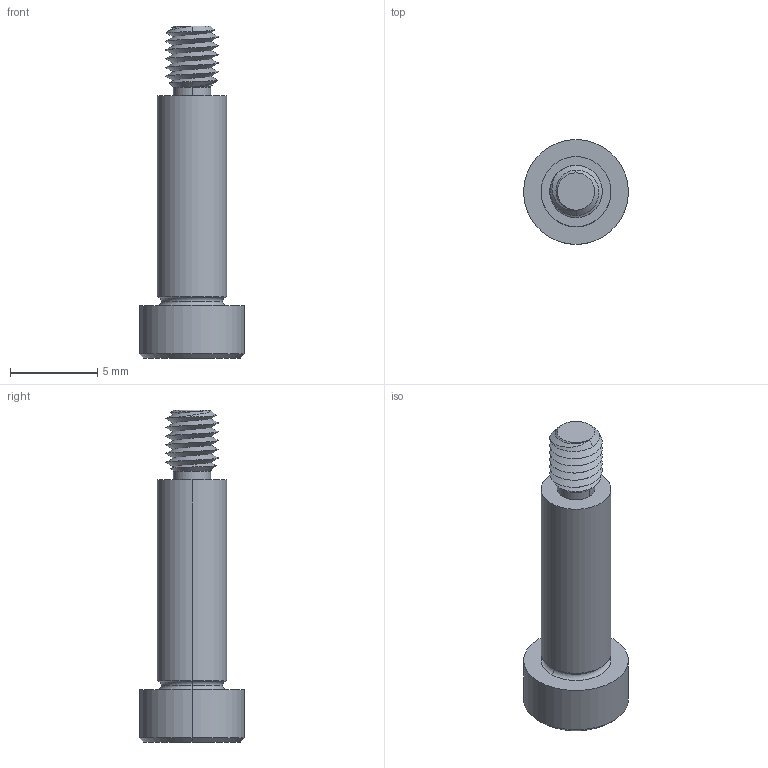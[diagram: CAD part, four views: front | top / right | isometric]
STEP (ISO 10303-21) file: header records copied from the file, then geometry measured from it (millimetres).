
FILE_DESCRIPTION (( 'STEP AP203' ), '1' );
FILE_NAME ('P0130.040-012-B2.step', '2021-11-09T21:03:48', ( '' ), ( '' ), 'SwSTEP 2.0', 'SolidWorks 2019', '' );
FILE_SCHEMA (( 'CONFIG_CONTROL_DESIGN' ));
Length unit declared in the file: millimetre
Products named in the file (1): P0130.040-012-B2
Bounding box: 6 x 6 x 19 mm (x, y, z)
Volume: 246 mm3; surface area: 335.1 mm2
Topology: 1 solids, 1 shells, 54 faces, 124 edges, 73 vertices
Faces by surface type: cylinder 18, plane 16, cone 14, torus 4, bspline 2
Entity records: 2218 total; most frequent: CARTESIAN_POINT 1016, ORIENTED_EDGE 244, DIRECTION 229, EDGE_CURVE 122, AXIS2_PLACEMENT_3D 93, VERTEX_POINT 73, EDGE_LOOP 57, FACE_OUTER_BOUND 54
